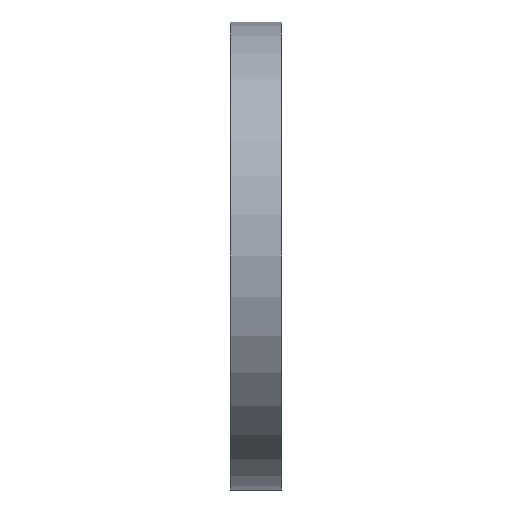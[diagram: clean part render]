
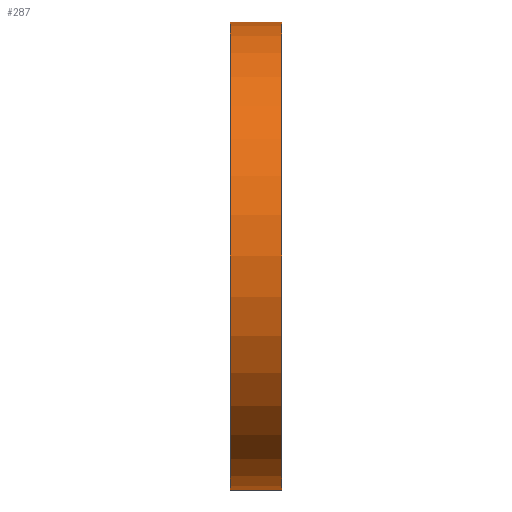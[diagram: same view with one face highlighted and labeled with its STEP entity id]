
A CAD part, left-side view. The second image highlights one B-rep face of the part: STEP entity #287.
In plain terms, the highlighted cylindrical face has radius 243.7 mm (diameter 487.4 mm), a full revolution.
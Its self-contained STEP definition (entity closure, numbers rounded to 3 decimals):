
#287=ADVANCED_FACE('',(#1009,#1011),#1013,.T.);
#1009=FACE_OUTER_BOUND('',#1010,.T.);
#1010=EDGE_LOOP('',(#1546));
#1011=FACE_OUTER_BOUND('',#1012,.T.);
#1012=EDGE_LOOP('',(#1547));
#1013=CYLINDRICAL_SURFACE('',#1014,243.7);
#1014=AXIS2_PLACEMENT_3D('',#1015,#1016,#1017);
#1015=CARTESIAN_POINT('',(0.,0.,0.));
#1016=DIRECTION('',(0.,1.,0.));
#1017=DIRECTION('',(-1.,0.,0.));
#1546=ORIENTED_EDGE('',*,*,#1692,.F.);
#1547=ORIENTED_EDGE('',*,*,#1689,.T.);
#1689=EDGE_CURVE('',#1805,#1805,#1806,.T.);
#1692=EDGE_CURVE('',#1811,#1811,#1812,.T.);
#1805=VERTEX_POINT('',#2073);
#1806=CIRCLE('',#2074,243.7);
#1811=VERTEX_POINT('',#2088);
#1812=CIRCLE('',#2089,243.7);
#2073=CARTESIAN_POINT('',(-243.7,0.2,0.));
#2074=AXIS2_PLACEMENT_3D('',#2075,#2076,#2077);
#2075=CARTESIAN_POINT('',(0.,0.2,0.));
#2076=DIRECTION('',(0.,1.,0.));
#2077=DIRECTION('',(-1.,0.,0.));
#2088=CARTESIAN_POINT('',(-243.7,53.8,0.));
#2089=AXIS2_PLACEMENT_3D('',#2090,#2091,#2092);
#2090=CARTESIAN_POINT('',(0.,53.8,0.));
#2091=DIRECTION('',(0.,1.,0.));
#2092=DIRECTION('',(-1.,0.,0.));
